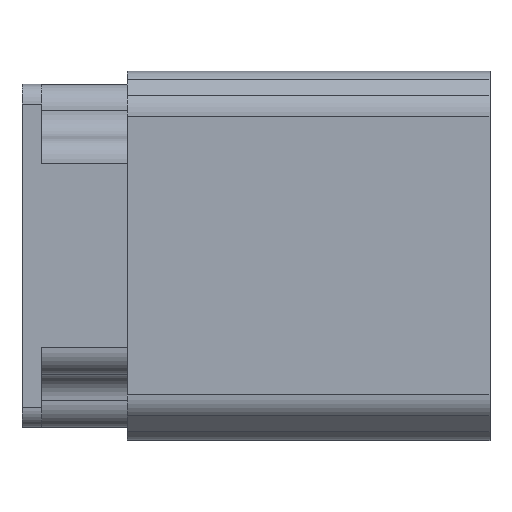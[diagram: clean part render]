
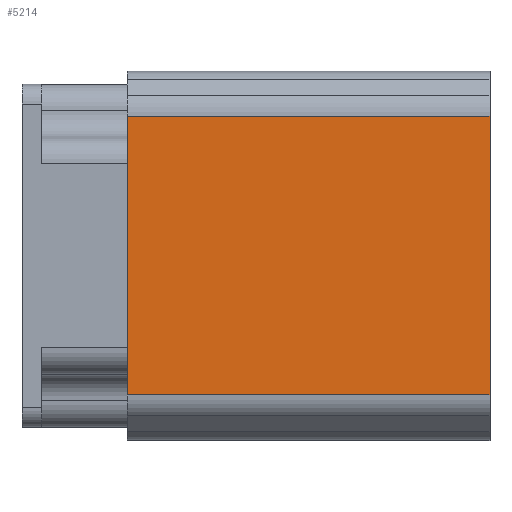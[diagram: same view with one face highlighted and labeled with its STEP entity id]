
A CAD part, top view. The second image highlights one B-rep face of the part: STEP entity #5214.
In plain terms, the highlighted planar face has unit normal (0, 0, 1).
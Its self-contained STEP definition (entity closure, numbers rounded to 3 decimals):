
#438 = DIRECTION ( 'NONE',  ( -1., 0., 0. ) ) ;
#450 = VERTEX_POINT ( 'NONE', #4463 ) ;
#645 = LINE ( 'NONE', #5256, #5522 ) ;
#798 = DIRECTION ( 'NONE',  ( 1., 0., 0. ) ) ;
#977 = ORIENTED_EDGE ( 'NONE', *, *, #6252, .F. ) ;
#1433 = PLANE ( 'NONE',  #3405 ) ;
#1443 = VECTOR ( 'NONE', #3534, 1000. ) ;
#1503 = LINE ( 'NONE', #6316, #4524 ) ;
#1595 = EDGE_CURVE ( 'NONE', #3614, #5643, #1503, .T. ) ;
#1624 = CARTESIAN_POINT ( 'NONE',  ( 71., 0., 28. ) ) ;
#1867 = FACE_OUTER_BOUND ( 'NONE', #5332, .T. ) ;
#2749 = LINE ( 'NONE', #1624, #1443 ) ;
#2890 = CARTESIAN_POINT ( 'NONE',  ( 16., -21.136, 28. ) ) ;
#2987 = LINE ( 'NONE', #3990, #4540 ) ;
#3077 = ORIENTED_EDGE ( 'NONE', *, *, #5884, .F. ) ;
#3105 = DIRECTION ( 'NONE',  ( 0., 1., 0. ) ) ;
#3388 = DIRECTION ( 'NONE',  ( 0., 1., 0. ) ) ;
#3405 = AXIS2_PLACEMENT_3D ( 'NONE', #4435, #4898, #3388 ) ;
#3534 = DIRECTION ( 'NONE',  ( 0., -1., 0. ) ) ;
#3614 = VERTEX_POINT ( 'NONE', #4450 ) ;
#3687 = ORIENTED_EDGE ( 'NONE', *, *, #4455, .F. ) ;
#3990 = CARTESIAN_POINT ( 'NONE',  ( 16., -28., 28. ) ) ;
#4435 = CARTESIAN_POINT ( 'NONE',  ( 71., -28., 28. ) ) ;
#4450 = CARTESIAN_POINT ( 'NONE',  ( 71., -21.136, 28. ) ) ;
#4455 = EDGE_CURVE ( 'NONE', #5963, #450, #645, .T. ) ;
#4463 = CARTESIAN_POINT ( 'NONE',  ( 71., 21.136, 28. ) ) ;
#4524 = VECTOR ( 'NONE', #438, 1000. ) ;
#4540 = VECTOR ( 'NONE', #3105, 1000. ) ;
#4898 = DIRECTION ( 'NONE',  ( 0., 0., -1. ) ) ;
#4942 = ORIENTED_EDGE ( 'NONE', *, *, #1595, .F. ) ;
#5214 = ADVANCED_FACE ( 'NONE', ( #1867 ), #1433, .F. ) ;
#5256 = CARTESIAN_POINT ( 'NONE',  ( 71., 21.136, 28. ) ) ;
#5332 = EDGE_LOOP ( 'NONE', ( #4942, #977, #3687, #3077 ) ) ;
#5522 = VECTOR ( 'NONE', #798, 1000. ) ;
#5643 = VERTEX_POINT ( 'NONE', #2890 ) ;
#5884 = EDGE_CURVE ( 'NONE', #5643, #5963, #2987, .T. ) ;
#5963 = VERTEX_POINT ( 'NONE', #6261 ) ;
#6252 = EDGE_CURVE ( 'NONE', #450, #3614, #2749, .T. ) ;
#6261 = CARTESIAN_POINT ( 'NONE',  ( 16., 21.136, 28. ) ) ;
#6316 = CARTESIAN_POINT ( 'NONE',  ( 71., -21.136, 28. ) ) ;
